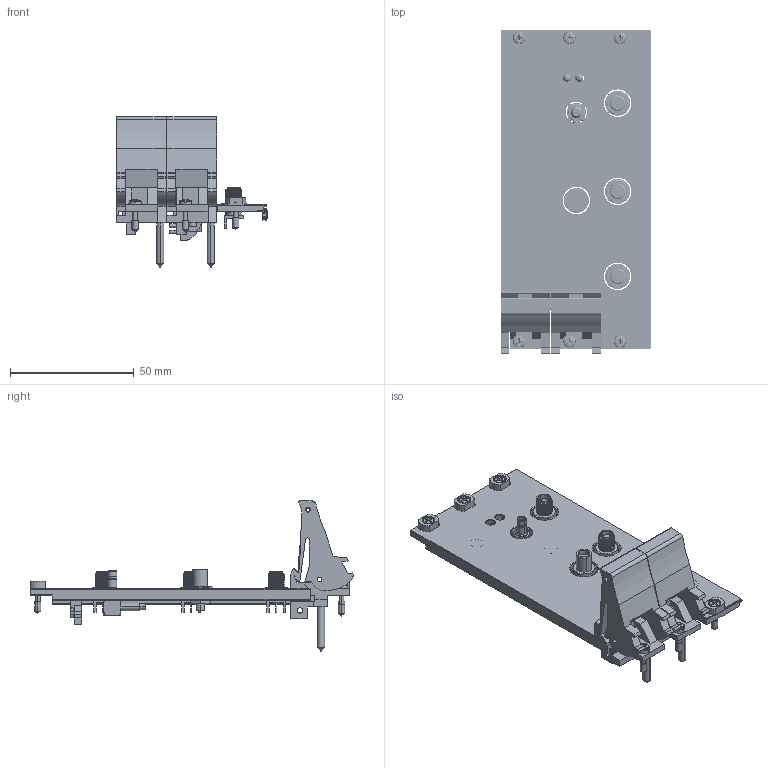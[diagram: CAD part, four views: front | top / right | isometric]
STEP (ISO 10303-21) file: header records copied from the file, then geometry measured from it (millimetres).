
FILE_DESCRIPTION((''),'2;1');
FILE_NAME('CU_PXIE-5185','2011-03-30T',('jjorden'),(''),'PRO/ENGINEER BY PARAMETRIC TECHNOLOGY CORPORATION, 2010230','PRO/ENGINEER BY PARAMETRIC TECHNOLOGY CORPORATION, 2010230','');
FILE_SCHEMA(('CONFIG_CONTROL_DESIGN'));
Length unit declared in the file: inch
Products named in the file (1): CU_PXIE-5185
Bounding box: 60.88 x 130.5 x 60.53 mm (x, y, z)
Volume: 39078.8 mm3; surface area: 38254.7 mm2
Topology: 15 solids, 17 shells, 1608 faces, 4109 edges, 2595 vertices
Faces by surface type: plane 835, cylinder 515, cone 124, bspline 94, sphere 24, torus 16
Entity records: 70237 total; most frequent: CARTESIAN_POINT 32039, ORIENTED_EDGE 8154, DIRECTION 7478, EDGE_CURVE 4085, VERTEX_POINT 2633, AXIS2_PLACEMENT_3D 2548, VECTOR 2382, LINE 2382
